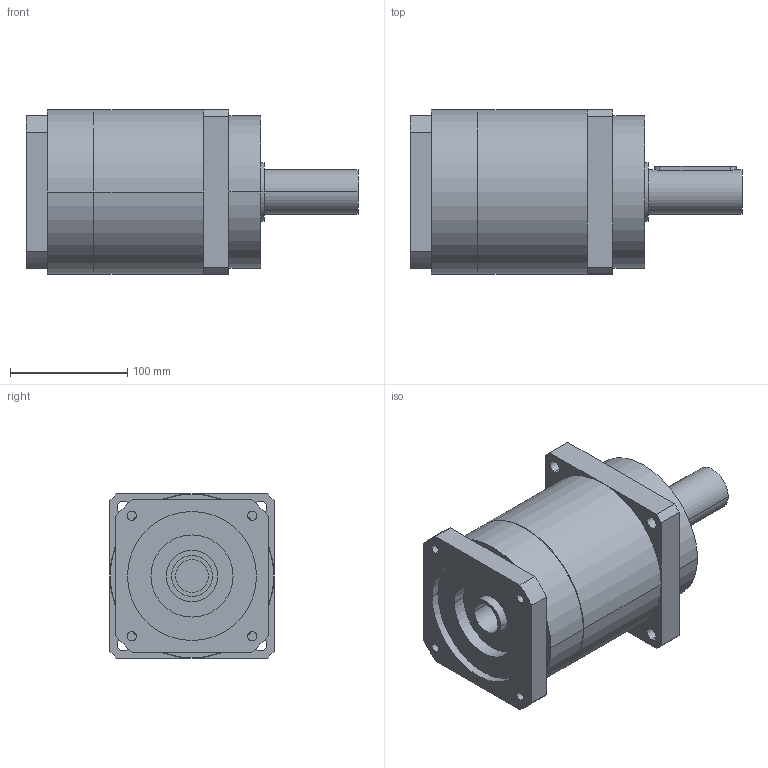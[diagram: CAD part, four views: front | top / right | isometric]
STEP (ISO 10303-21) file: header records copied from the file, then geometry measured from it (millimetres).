
FILE_DESCRIPTION(('CoCreate Modeling STEP Export'),'2;1');
FILE_NAME('GPR150_ig-3-4-5-7_38_B5_28_P08.stp','2014-08-19T16:42:43',(''),(''),'CoCreate Modeling STEP processor for AP214 (Solid Model)','CoCreate Modeling 16.00C 25-Feb-2009 (C) Parametric Technology GmbH','');
FILE_SCHEMA(('AUTOMOTIVE_DESIGN { 1 0 10303 214 1 1 1 1 }'));
Length unit declared in the file: millimetre
Products named in the file (2): GPR150_ig-3-4-5-7_38_B5_28_P08
Assembly tree (1 placements, depth 2):
  GPR150_ig-3-4-5-7_38_B5_28_P08
    GPR150_ig-3-4-5-7_38_B5_28_P08
Bounding box: 283 x 140 x 140 mm (x, y, z)
Volume: 3069688.1 mm3; surface area: 160534 mm2
Topology: 1 solids, 1 shells, 92 faces, 247 edges, 161 vertices
Faces by surface type: cylinder 48, plane 38, cone 6
Entity records: 2492 total; most frequent: ORIENTED_EDGE 490, CARTESIAN_POINT 451, DIRECTION 344, EDGE_CURVE 245, VERTEX_POINT 161, AXIS2_PLACEMENT_3D 126, EDGE_LOOP 114, VECTOR 92
